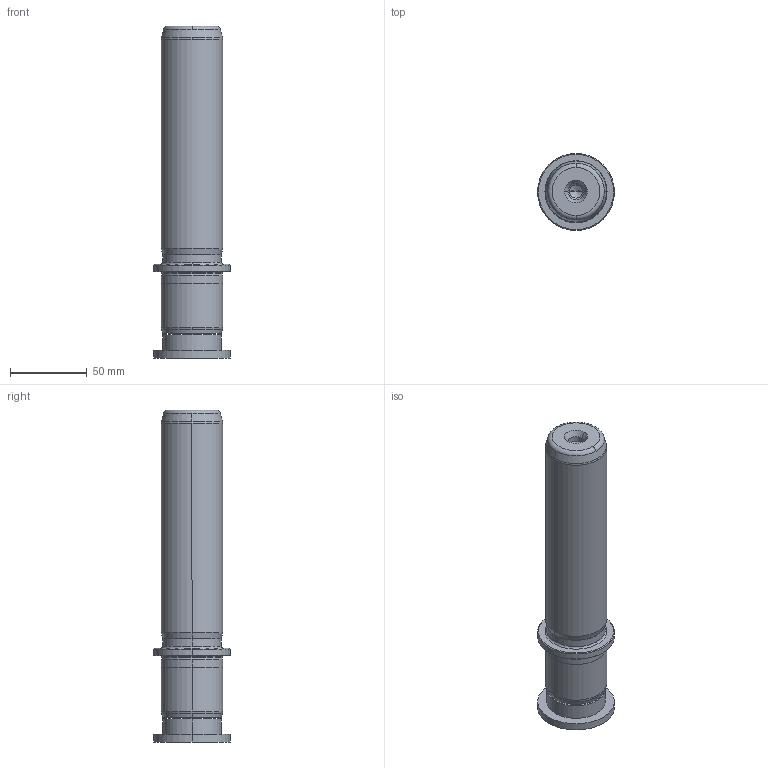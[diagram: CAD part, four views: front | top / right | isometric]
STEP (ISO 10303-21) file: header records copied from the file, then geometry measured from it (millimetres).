
FILE_DESCRIPTION((''),'2;1');
FILE_NAME('P22_040_160.stp','2009-02-16T10:20:00',(''),(''),'Mechanical Desktop 2009','Mechanical Desktop 2009',', , ');
FILE_SCHEMA(('CONFIG_CONTROL_DESIGN'));
Length unit declared in the file: millimetre
Products named in the file (2): Product; blmdl1
Assembly tree (1 placements, depth 2):
  Product
    blmdl1
Bounding box: 50 x 50 x 216 mm (x, y, z)
Volume: 270039 mm3; surface area: 38552.4 mm2
Topology: 3 solids, 3 shells, 99 faces, 237 edges, 149 vertices
Faces by surface type: cylinder 32, cone 28, plane 19, torus 10, bspline 10
Entity records: 3419 total; most frequent: CARTESIAN_POINT 923, DIRECTION 570, ORIENTED_EDGE 466, AXIS2_PLACEMENT_3D 246, EDGE_CURVE 233, CIRCLE 155, VERTEX_POINT 149, EDGE_LOOP 110
